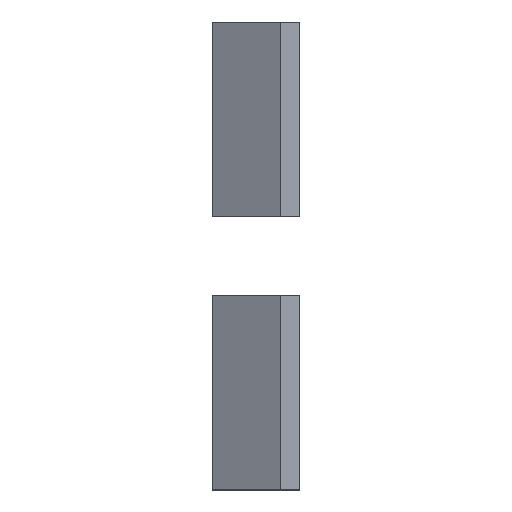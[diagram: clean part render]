
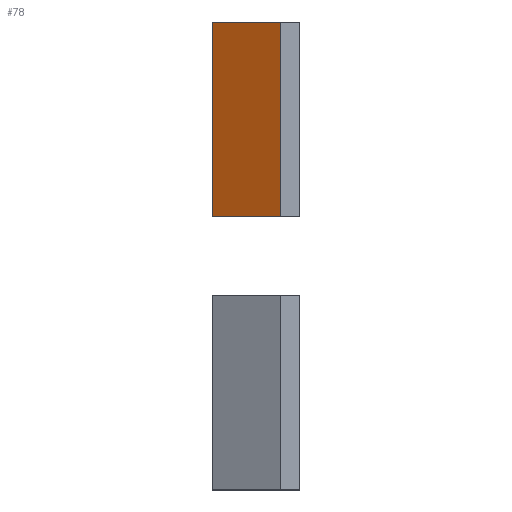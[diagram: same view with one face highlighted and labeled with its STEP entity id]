
A CAD part, front view. The second image highlights one B-rep face of the part: STEP entity #78.
In plain terms, the highlighted planar face has unit normal (-0.496, -0.868, 0) as drawn and (0.496, 0.868, 0) by its records, which use the part's own axes.
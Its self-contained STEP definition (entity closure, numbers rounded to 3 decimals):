
#78=ADVANCED_FACE('',(#114),#1246,.T.);
#114=FACE_OUTER_BOUND('',#152,.T.);
#152=EDGE_LOOP('',(#246,#247,#248,#249));
#246=ORIENTED_EDGE('',*,*,#863,.T.);
#247=ORIENTED_EDGE('',*,*,#864,.T.);
#248=ORIENTED_EDGE('',*,*,#865,.T.);
#249=ORIENTED_EDGE('',*,*,#861,.F.);
#441=PCURVE('',#1245,#621);
#444=PCURVE('',#1246,#624);
#445=PCURVE('',#1246,#625);
#446=PCURVE('',#1246,#626);
#447=PCURVE('',#1246,#627);
#451=PCURVE('',#1247,#631);
#477=PCURVE('',#1252,#657);
#482=PCURVE('',#1253,#662);
#621=DEFINITIONAL_REPRESENTATION('',(#1011),#2290);
#624=DEFINITIONAL_REPRESENTATION('',(#1016),#2290);
#625=DEFINITIONAL_REPRESENTATION('',(#1018),#2290);
#626=DEFINITIONAL_REPRESENTATION('',(#1020),#2290);
#627=DEFINITIONAL_REPRESENTATION('',(#1021),#2290);
#631=DEFINITIONAL_REPRESENTATION('',(#1028),#2290);
#657=DEFINITIONAL_REPRESENTATION('',(#1065),#2290);
#662=DEFINITIONAL_REPRESENTATION('',(#1070),#2290);
#771=SURFACE_CURVE('',#1010,(#441,#447),.PCURVE_S1.);
#773=SURFACE_CURVE('',#1015,(#444,#477),.PCURVE_S1.);
#774=SURFACE_CURVE('',#1017,(#445,#451),.PCURVE_S1.);
#775=SURFACE_CURVE('',#1019,(#446,#482),.PCURVE_S1.);
#861=EDGE_CURVE('',#1192,#1193,#771,.T.);
#863=EDGE_CURVE('',#1192,#1194,#773,.T.);
#864=EDGE_CURVE('',#1194,#1195,#774,.T.);
#865=EDGE_CURVE('',#1195,#1193,#775,.T.);
#1010=B_SPLINE_CURVE_WITH_KNOTS('',1,(#1772,#1773),.UNSPECIFIED.,.F.,.F.,
(2,2),(0.,10.),.UNSPECIFIED.);
#1011=B_SPLINE_CURVE_WITH_KNOTS('',1,(#1774,#1775),.UNSPECIFIED.,.F.,.F.,
(2,2),(0.,10.),.UNSPECIFIED.);
#1015=B_SPLINE_CURVE_WITH_KNOTS('',1,(#1782,#1783),.UNSPECIFIED.,.F.,.F.,
(2,2),(-23.211,-19.106),.UNSPECIFIED.);
#1016=B_SPLINE_CURVE_WITH_KNOTS('',1,(#1784,#1785),.UNSPECIFIED.,.F.,.F.,
(2,2),(-23.211,-19.106),.UNSPECIFIED.);
#1017=B_SPLINE_CURVE_WITH_KNOTS('',1,(#1786,#1787),.UNSPECIFIED.,.F.,.F.,
(2,2),(0.,10.),.UNSPECIFIED.);
#1018=B_SPLINE_CURVE_WITH_KNOTS('',1,(#1788,#1789),.UNSPECIFIED.,.F.,.F.,
(2,2),(0.,10.),.UNSPECIFIED.);
#1019=B_SPLINE_CURVE_WITH_KNOTS('',1,(#1790,#1791),.UNSPECIFIED.,.F.,.F.,
(2,2),(19.106,23.211),.UNSPECIFIED.);
#1020=B_SPLINE_CURVE_WITH_KNOTS('',1,(#1792,#1793),.UNSPECIFIED.,.F.,.F.,
(2,2),(19.106,23.211),.UNSPECIFIED.);
#1021=B_SPLINE_CURVE_WITH_KNOTS('',1,(#1794,#1795),.UNSPECIFIED.,.F.,.F.,
(2,2),(0.,10.),.UNSPECIFIED.);
#1028=B_SPLINE_CURVE_WITH_KNOTS('',1,(#1808,#1809),.UNSPECIFIED.,.F.,.F.,
(2,2),(0.,10.),.UNSPECIFIED.);
#1065=B_SPLINE_CURVE_WITH_KNOTS('',1,(#1946,#1947),.UNSPECIFIED.,.F.,.F.,
(2,2),(-23.211,-19.106),.UNSPECIFIED.);
#1070=B_SPLINE_CURVE_WITH_KNOTS('',1,(#1956,#1957),.UNSPECIFIED.,.F.,.F.,
(2,2),(19.106,23.211),.UNSPECIFIED.);
#1192=VERTEX_POINT('',#1736);
#1193=VERTEX_POINT('',#1737);
#1194=VERTEX_POINT('',#1738);
#1195=VERTEX_POINT('',#1739);
#1245=PLANE('',#1320);
#1246=PLANE('',#1321);
#1247=PLANE('',#1322);
#1252=PLANE('',#1327);
#1253=PLANE('',#1328);
#1320=AXIS2_PLACEMENT_3D('',#1687,#1360,$);
#1321=AXIS2_PLACEMENT_3D('',#1688,#1361,$);
#1322=AXIS2_PLACEMENT_3D('',#1689,#1362,$);
#1327=AXIS2_PLACEMENT_3D('',#1694,#1367,$);
#1328=AXIS2_PLACEMENT_3D('',#1695,#1368,$);
#1360=DIRECTION('',(-1.,0.,0.));
#1361=DIRECTION('',(0.496,0.868,0.));
#1362=DIRECTION('',(1.,0.,0.));
#1367=DIRECTION('',(0.,0.,1.));
#1368=DIRECTION('',(0.,0.,-1.));
#1687=CARTESIAN_POINT('',(753.,22.,3.017));
#1688=CARTESIAN_POINT('',(753.,20.,3.017));
#1689=CARTESIAN_POINT('',(749.5,22.,3.017));
#1694=CARTESIAN_POINT('',(748.938,31.25,3.017));
#1695=CARTESIAN_POINT('',(748.938,31.25,13.017));
#1736=CARTESIAN_POINT('',(753.,20.,3.017));
#1737=CARTESIAN_POINT('',(753.,20.,13.017));
#1738=CARTESIAN_POINT('',(749.5,22.,3.017));
#1739=CARTESIAN_POINT('',(749.5,22.,13.017));
#1772=CARTESIAN_POINT('',(753.,20.,3.017));
#1773=CARTESIAN_POINT('',(753.,20.,13.017));
#1774=CARTESIAN_POINT('',(-23.211,0.));
#1775=CARTESIAN_POINT('',(-23.211,10.));
#1782=CARTESIAN_POINT('',(753.,20.,3.017));
#1783=CARTESIAN_POINT('',(749.5,22.,3.017));
#1784=CARTESIAN_POINT('',(-23.211,0.));
#1785=CARTESIAN_POINT('',(-19.106,0.));
#1786=CARTESIAN_POINT('',(749.5,22.,3.017));
#1787=CARTESIAN_POINT('',(749.5,22.,13.017));
#1788=CARTESIAN_POINT('',(-19.106,0.));
#1789=CARTESIAN_POINT('',(-19.106,10.));
#1790=CARTESIAN_POINT('',(749.5,22.,13.017));
#1791=CARTESIAN_POINT('',(753.,20.,13.017));
#1792=CARTESIAN_POINT('',(-19.106,10.));
#1793=CARTESIAN_POINT('',(-23.211,10.));
#1794=CARTESIAN_POINT('',(-23.211,0.));
#1795=CARTESIAN_POINT('',(-23.211,10.));
#1808=CARTESIAN_POINT('',(-19.106,0.));
#1809=CARTESIAN_POINT('',(-19.106,10.));
#1946=CARTESIAN_POINT('',(2.,-1.));
#1947=CARTESIAN_POINT('',(0.,-4.5));
#1956=CARTESIAN_POINT('',(-4.5,0.));
#1957=CARTESIAN_POINT('',(-1.,2.));
#2290=(
GEOMETRIC_REPRESENTATION_CONTEXT(2)
PARAMETRIC_REPRESENTATION_CONTEXT()
REPRESENTATION_CONTEXT('pspace','')
);
